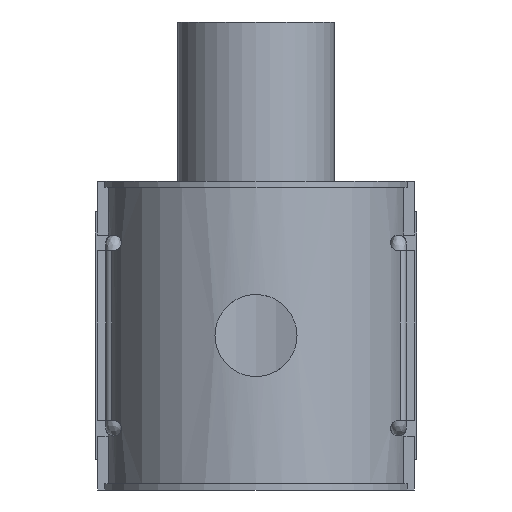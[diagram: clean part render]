
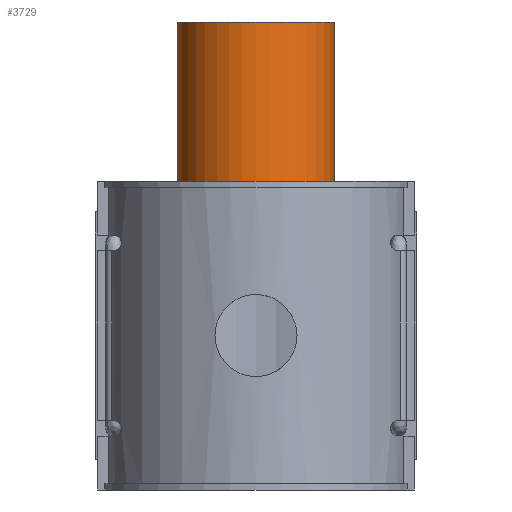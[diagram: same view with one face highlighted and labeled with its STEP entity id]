
A CAD part, front view. The second image highlights one B-rep face of the part: STEP entity #3729.
In plain terms, the highlighted cylindrical face has radius 30.05 mm (diameter 60.1 mm), a full revolution.
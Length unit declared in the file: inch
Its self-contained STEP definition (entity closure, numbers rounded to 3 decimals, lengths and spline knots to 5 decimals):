
#337=CIRCLE('',#4094,1.18307);
#338=CIRCLE('',#4095,1.18307);
#339=CIRCLE('',#4096,1.18307);
#340=CIRCLE('',#4097,1.18307);
#551=FACE_OUTER_BOUND('',#778,.T.);
#778=EDGE_LOOP('',(#3456,#3457,#3458,#3459,#3460,#3461));
#1102=LINE('',#7850,#1422);
#1422=VECTOR('',#5107,1.18307);
#1839=VERTEX_POINT('',#7845);
#1840=VERTEX_POINT('',#7846);
#1841=VERTEX_POINT('',#7849);
#1842=VERTEX_POINT('',#7851);
#2380=EDGE_CURVE('',#1839,#1840,#337,.T.);
#2381=EDGE_CURVE('',#1840,#1839,#338,.T.);
#2382=EDGE_CURVE('',#1840,#1841,#1102,.T.);
#2383=EDGE_CURVE('',#1841,#1842,#339,.T.);
#2384=EDGE_CURVE('',#1842,#1841,#340,.T.);
#3456=ORIENTED_EDGE('',*,*,#2380,.F.);
#3457=ORIENTED_EDGE('',*,*,#2381,.F.);
#3458=ORIENTED_EDGE('',*,*,#2382,.T.);
#3459=ORIENTED_EDGE('',*,*,#2383,.T.);
#3460=ORIENTED_EDGE('',*,*,#2384,.T.);
#3461=ORIENTED_EDGE('',*,*,#2382,.F.);
#3527=CYLINDRICAL_SURFACE('',#4093,1.18307);
#3729=ADVANCED_FACE('',(#551),#3527,.T.);
#4093=AXIS2_PLACEMENT_3D('',#7844,#5101,#5102);
#4094=AXIS2_PLACEMENT_3D('',#7847,#5103,#5104);
#4095=AXIS2_PLACEMENT_3D('',#7848,#5105,#5106);
#4096=AXIS2_PLACEMENT_3D('',#7852,#5108,#5109);
#4097=AXIS2_PLACEMENT_3D('',#7853,#5110,#5111);
#5101=DIRECTION('center_axis',(0.,0.,1.));
#5102=DIRECTION('ref_axis',(0.,-1.,0.));
#5103=DIRECTION('center_axis',(0.,0.,1.));
#5104=DIRECTION('ref_axis',(1.,0.,0.));
#5105=DIRECTION('center_axis',(0.,0.,1.));
#5106=DIRECTION('ref_axis',(1.,0.,0.));
#5107=DIRECTION('',(0.,0.,-1.));
#5108=DIRECTION('center_axis',(0.,0.,1.));
#5109=DIRECTION('ref_axis',(1.,0.,0.));
#5110=DIRECTION('center_axis',(0.,0.,1.));
#5111=DIRECTION('ref_axis',(1.,0.,0.));
#7844=CARTESIAN_POINT('Origin',(0.,4.30606,2.36));
#7845=CARTESIAN_POINT('',(0.,3.12299,4.72));
#7846=CARTESIAN_POINT('',(0.,5.48913,4.72));
#7847=CARTESIAN_POINT('Origin',(0.,4.30606,4.72));
#7848=CARTESIAN_POINT('Origin',(0.,4.30606,4.72));
#7849=CARTESIAN_POINT('',(0.,5.48913,0.));
#7850=CARTESIAN_POINT('',(0.,5.48913,2.36));
#7851=CARTESIAN_POINT('',(0.,3.12299,0.));
#7852=CARTESIAN_POINT('Origin',(0.,4.30606,0.));
#7853=CARTESIAN_POINT('Origin',(0.,4.30606,0.));
